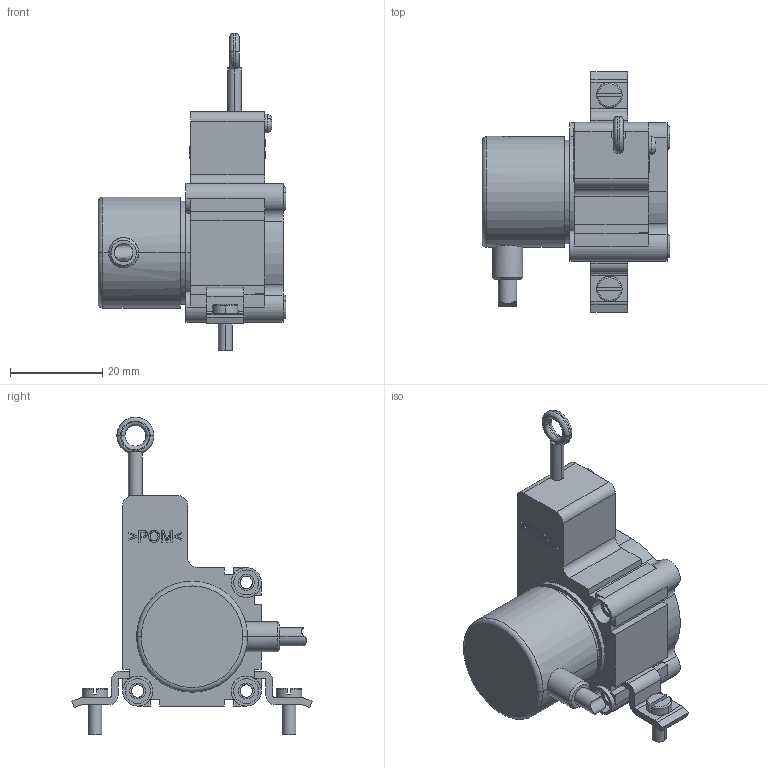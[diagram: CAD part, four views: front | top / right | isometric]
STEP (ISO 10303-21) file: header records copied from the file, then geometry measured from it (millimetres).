
FILE_DESCRIPTION((''),'2;1');
FILE_NAME('','2007-03-15T',(''),(''),'PRO/ENGINEER BY PARAMETRIC TECHNOLOGY CORPORATION, 2003250','PRO/ENGINEER BY PARAMETRIC TECHNOLOGY CORPORATION, 2003250','');
FILE_SCHEMA(('CONFIG_CONTROL_DESIGN'));
Length unit declared in the file: millimetre
Bounding box: 40.6 x 52 x 68.7 mm (x, y, z)
Volume: 18102.7 mm3; surface area: 13484.1 mm2
Topology: 1 solids, 13 shells, 596 faces, 1586 edges, 1060 vertices
Faces by surface type: plane 290, cylinder 151, extrusion 125, torus 20, cone 8, bspline 2
Entity records: 20066 total; most frequent: CARTESIAN_POINT 5314, ORIENTED_EDGE 3160, DIRECTION 2789, EDGE_CURVE 1580, VERTEX_POINT 1060, VECTOR 959, AXIS2_PLACEMENT_3D 915, LINE 834
